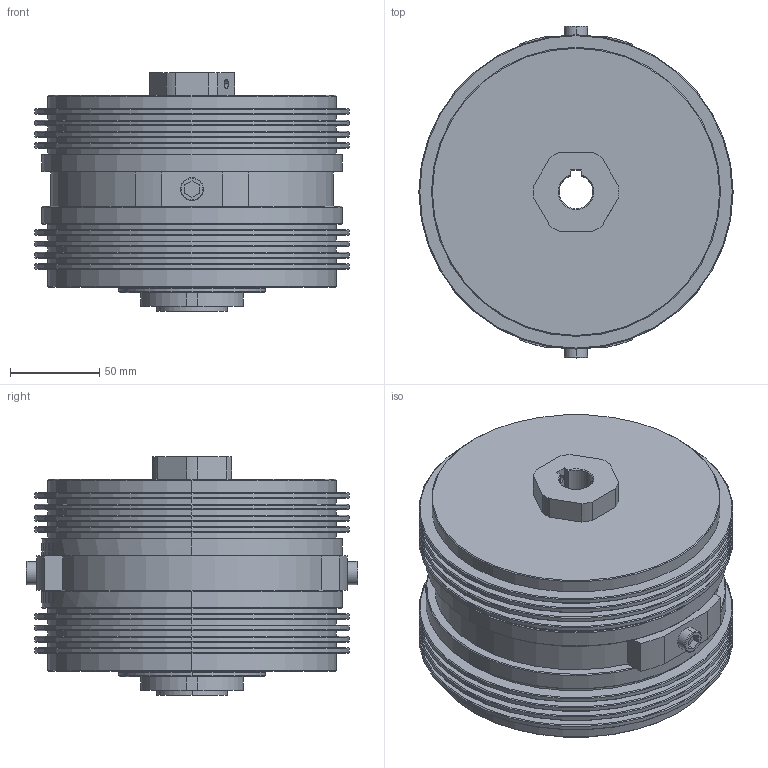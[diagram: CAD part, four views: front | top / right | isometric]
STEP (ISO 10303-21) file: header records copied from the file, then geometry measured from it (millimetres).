
FILE_DESCRIPTION (( 'STEP AP214' ), '1' );
FILE_NAME ('MTL140-19mm CUSTOMER SOLID.STEP', '2015-10-22T18:58:39', ( '' ), ( '' ), 'SwSTEP 2.0', 'SolidWorks 2014', '' );
FILE_SCHEMA (( 'AUTOMOTIVE_DESIGN' ));
Length unit declared in the file: inch
Products named in the file (1): MTL140-19mm CUSTOMER SOLID
Bounding box: 176.53 x 186.49 x 134.11 mm (x, y, z)
Volume: 2386902.3 mm3; surface area: 178889.1 mm2
Topology: 1 solids, 1 shells, 328 faces, 786 edges, 483 vertices
Faces by surface type: plane 185, cylinder 79, cone 58, torus 6
Entity records: 11028 total; most frequent: DIRECTION 1726, CARTESIAN_POINT 1662, ORIENTED_EDGE 1560, EDGE_CURVE 780, AXIS2_PLACEMENT_3D 623, VERTEX_POINT 483, VECTOR 480, LINE 480
